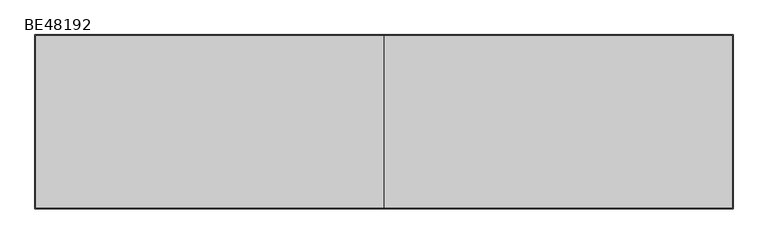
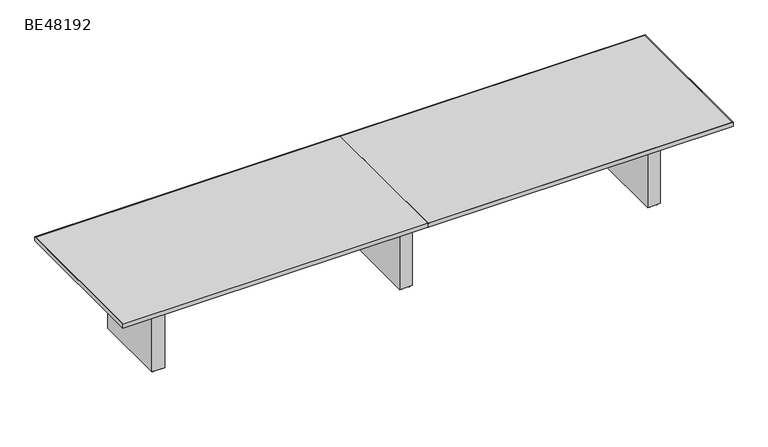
"""IFC4 building model written with IfcOpenShell, lengths in millimetres: furniture geometry, ERG-Beta-Conference_Table-Rectangle : BE48192."""

from ifc_helpers import new_model, si_unit, point, frame, frame_2d, origin, origin_with_axes, place, context, project, spatial, polyline, circle_curve, trimmed, segment, composite_curve, outline, extrude, source, transform, mapped, element, save


def be48192_92fb3286(model_context):
    return source(origin(), model_context, "Body", "SweptSolid", [
        extrude(outline(composite_curve([segment(trimmed(circle_curve(frame_2d((511.175, 339.476527)), 9.525), [point((501.65, 339.476527))], [point((520.7, 339.476527))], False, "CARTESIAN"), True, "CONTINUOUS"), segment(trimmed(circle_curve(frame_2d((511.175, 339.476527)), 9.525), [point((520.7, 339.476527))], [point((501.65, 339.476527))], False, "CARTESIAN"), True, "CONTINUOUS")], self_intersect=False)), origin_with_axes(), (0.0, 0.0, 1.0), 9.525),
        extrude(outline(composite_curve([segment(trimmed(circle_curve(frame_2d((574.675, 339.476527)), 9.525), [point((565.15, 339.476527))], [point((584.2, 339.476527))], False, "CARTESIAN"), True, "CONTINUOUS"), segment(trimmed(circle_curve(frame_2d((574.675, 339.476527)), 9.525), [point((584.2, 339.476527))], [point((565.15, 339.476527))], False, "CARTESIAN"), True, "CONTINUOUS")], self_intersect=False)), origin_with_axes(), (0.0, 0.0, 1.0), 9.525),
        extrude(outline(composite_curve([segment(trimmed(circle_curve(frame_2d((511.175, -232.023473)), 9.525), [point((501.65, -232.023473))], [point((520.7, -232.023473))], False, "CARTESIAN"), True, "CONTINUOUS"), segment(trimmed(circle_curve(frame_2d((511.175, -232.023473)), 9.525), [point((520.7, -232.023473))], [point((501.65, -232.023473))], False, "CARTESIAN"), True, "CONTINUOUS")], self_intersect=False)), origin_with_axes(), (0.0, 0.0, 1.0), 9.525),
        extrude(outline(composite_curve([segment(trimmed(circle_curve(frame_2d((574.675, -232.023473)), 9.525), [point((565.15, -232.023473))], [point((584.2, -232.023473))], False, "CARTESIAN"), True, "CONTINUOUS"), segment(trimmed(circle_curve(frame_2d((574.675, -232.023473)), 9.525), [point((584.2, -232.023473))], [point((565.15, -232.023473))], False, "CARTESIAN"), True, "CONTINUOUS")], self_intersect=False)), origin_with_axes(), (0.0, 0.0, 1.0), 9.525),
        extrude(outline(polyline([(593.725, 358.526527), (593.725, -251.073473), (492.125, -251.073473), (492.125, 358.526527), (593.725, 358.526527)])), frame((0.0, 0.0, 9.525), z_axis=(0.0, 0.0, 1.0), x_axis=(1.0, 0.0, 0.0)), (0.0, 0.0, 1.0), 695.3249758),
        extrude(outline(composite_curve([segment(trimmed(circle_curve(frame_2d((2492.375, 339.476527)), 9.525), [point((2482.85, 339.476527))], [point((2501.9, 339.476527))], False, "CARTESIAN"), True, "CONTINUOUS"), segment(trimmed(circle_curve(frame_2d((2492.375, 339.476527)), 9.525), [point((2501.9, 339.476527))], [point((2482.85, 339.476527))], False, "CARTESIAN"), True, "CONTINUOUS")], self_intersect=False)), origin_with_axes(), (0.0, 0.0, 1.0), 9.525),
        extrude(outline(composite_curve([segment(trimmed(circle_curve(frame_2d((2555.875, 339.476527)), 9.525), [point((2546.35, 339.476527))], [point((2565.4, 339.476527))], False, "CARTESIAN"), True, "CONTINUOUS"), segment(trimmed(circle_curve(frame_2d((2555.875, 339.476527)), 9.525), [point((2565.4, 339.476527))], [point((2546.35, 339.476527))], False, "CARTESIAN"), True, "CONTINUOUS")], self_intersect=False)), origin_with_axes(), (0.0, 0.0, 1.0), 9.525),
        extrude(outline(composite_curve([segment(trimmed(circle_curve(frame_2d((2492.375, -232.023473)), 9.525), [point((2482.85, -232.023473))], [point((2501.9, -232.023473))], False, "CARTESIAN"), True, "CONTINUOUS"), segment(trimmed(circle_curve(frame_2d((2492.375, -232.023473)), 9.525), [point((2501.9, -232.023473))], [point((2482.85, -232.023473))], False, "CARTESIAN"), True, "CONTINUOUS")], self_intersect=False)), origin_with_axes(), (0.0, 0.0, 1.0), 9.525),
        extrude(outline(composite_curve([segment(trimmed(circle_curve(frame_2d((2555.875, -232.023473)), 9.525), [point((2546.35, -232.023473))], [point((2565.4, -232.023473))], False, "CARTESIAN"), True, "CONTINUOUS"), segment(trimmed(circle_curve(frame_2d((2555.875, -232.023473)), 9.525), [point((2565.4, -232.023473))], [point((2546.35, -232.023473))], False, "CARTESIAN"), True, "CONTINUOUS")], self_intersect=False)), origin_with_axes(), (0.0, 0.0, 1.0), 9.525),
        extrude(outline(polyline([(2574.925, 358.526527), (2574.925, -251.073473), (2473.325, -251.073473), (2473.325, 358.526527), (2574.925, 358.526527)])), frame((0.0, 0.0, 9.525), z_axis=(0.0, 0.0, 1.0), x_axis=(1.0, 0.0, 0.0)), (0.0, 0.0, 1.0), 695.3249758),
        extrude(outline(composite_curve([segment(trimmed(circle_curve(frame_2d((-1470.025, 339.476527)), 9.525), [point((-1479.55, 339.476527))], [point((-1460.5, 339.476527))], False, "CARTESIAN"), True, "CONTINUOUS"), segment(trimmed(circle_curve(frame_2d((-1470.025, 339.476527)), 9.525), [point((-1460.5, 339.476527))], [point((-1479.55, 339.476527))], False, "CARTESIAN"), True, "CONTINUOUS")], self_intersect=False)), origin_with_axes(), (0.0, 0.0, 1.0), 9.525),
        extrude(outline(composite_curve([segment(trimmed(circle_curve(frame_2d((-1406.525, 339.476527)), 9.525), [point((-1416.05, 339.476527))], [point((-1397.0, 339.476527))], False, "CARTESIAN"), True, "CONTINUOUS"), segment(trimmed(circle_curve(frame_2d((-1406.525, 339.476527)), 9.525), [point((-1397.0, 339.476527))], [point((-1416.05, 339.476527))], False, "CARTESIAN"), True, "CONTINUOUS")], self_intersect=False)), origin_with_axes(), (0.0, 0.0, 1.0), 9.525),
        extrude(outline(composite_curve([segment(trimmed(circle_curve(frame_2d((-1470.025, -232.023473)), 9.525), [point((-1479.55, -232.023473))], [point((-1460.5, -232.023473))], False, "CARTESIAN"), True, "CONTINUOUS"), segment(trimmed(circle_curve(frame_2d((-1470.025, -232.023473)), 9.525), [point((-1460.5, -232.023473))], [point((-1479.55, -232.023473))], False, "CARTESIAN"), True, "CONTINUOUS")], self_intersect=False)), origin_with_axes(), (0.0, 0.0, 1.0), 9.525),
        extrude(outline(composite_curve([segment(trimmed(circle_curve(frame_2d((-1406.525, -232.023473)), 9.525), [point((-1416.05, -232.023473))], [point((-1397.0, -232.023473))], False, "CARTESIAN"), True, "CONTINUOUS"), segment(trimmed(circle_curve(frame_2d((-1406.525, -232.023473)), 9.525), [point((-1397.0, -232.023473))], [point((-1416.05, -232.023473))], False, "CARTESIAN"), True, "CONTINUOUS")], self_intersect=False)), origin_with_axes(), (0.0, 0.0, 1.0), 9.525),
        extrude(outline(polyline([(-1387.475, 358.526527), (-1387.475, -251.073473), (-1489.075, -251.073473), (-1489.075, 358.526527), (-1387.475, 358.526527)])), frame((0.0, 0.0, 9.525), z_axis=(0.0, 0.0, 1.0), x_axis=(1.0, 0.0, 0.0)), (0.0, 0.0, 1.0), 695.3249758),
        extrude(outline(polyline([(2981.325, 663.326527), (2981.325, -555.873473), (544.5125, -555.873473), (544.5125, -552.698473), (2978.15, -552.698473), (2978.15, 660.151527), (544.5125, 660.151527), (544.5125, 663.326527), (2981.325, 663.326527)])), frame((0.0, 0.0, 704.85), z_axis=(0.0, 0.0, 1.0), x_axis=(1.0, 0.0, 0.0)), (0.0, 0.0, 1.0), 31.75),
        extrude(outline(polyline([(-1895.475, -555.873473), (-1895.475, 663.326527), (541.3375, 663.326527), (541.3375, 660.151527), (-1892.3, 660.151527), (-1892.3, -552.698473), (541.3375, -552.698473), (541.3375, -555.873473), (-1895.475, -555.873473)])), frame((0.0, 0.0, 704.85), z_axis=(0.0, 0.0, 1.0), x_axis=(1.0, 0.0, 0.0)), (0.0, 0.0, 1.0), 31.75),
        extrude(outline(polyline([(2978.15, 660.151527), (2978.15, -552.698473), (544.5125, -552.698473), (544.5125, 660.151527), (2978.15, 660.151527)])), frame((0.0, 0.0, 704.85), z_axis=(0.0, 0.0, 1.0), x_axis=(1.0, 0.0, 0.0)), (0.0, 0.0, 1.0), 31.75),
        extrude(outline(polyline([(-1892.3, -552.698473), (-1892.3, 660.151527), (541.3375, 660.151527), (541.3375, -552.698473), (-1892.3, -552.698473)])), frame((0.0, 0.0, 704.85), z_axis=(0.0, 0.0, 1.0), x_axis=(1.0, 0.0, 0.0)), (0.0, 0.0, 1.0), 31.75),
    ])


if __name__ == "__main__":
    model = new_model("IFC4")
    model_context = context("Model", 3, world=origin())
    ifc_project = project(units=[si_unit("LENGTHUNIT", "METRE", prefix="MILLI")], contexts=[model_context])
    site = spatial("IfcSite", under=ifc_project)
    building = spatial("IfcBuilding", under=site)
    placement = place(None, origin())
    be48192_shape = be48192_92fb3286(model_context)
    element("IfcFurniture", 1, ObjectType="ERG-Beta-Conference_Table-Rectangle : BE48192", at=placement, inside=building, context=model_context, shape_type="MappedRepresentation", body=[
        mapped(be48192_shape, transform((0.0, 0.0, 0.0), x_axis=(1.0, 0.0, 0.0), y_axis=(0.0, 1.0, 0.0), z_axis=(0.0, 0.0, 1.0))),
    ])
    save(model, "model.ifc")
